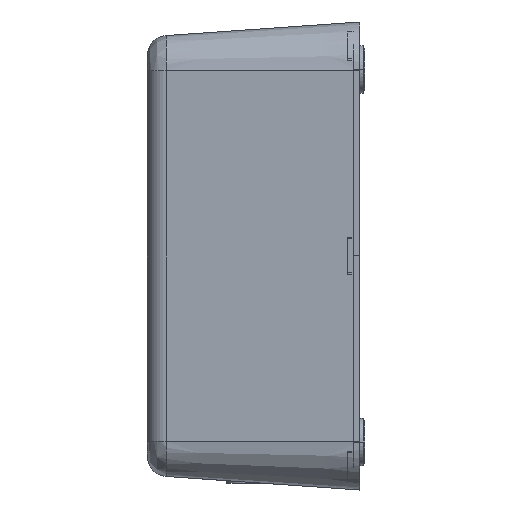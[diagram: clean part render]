
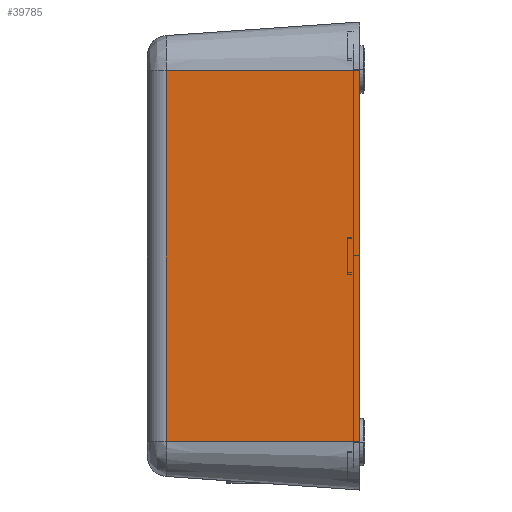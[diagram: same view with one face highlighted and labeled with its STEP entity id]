
A CAD part, left-side view. The second image highlights one B-rep face of the part: STEP entity #39785.
In plain terms, the highlighted planar face has unit normal (-0.998, 0.07, 0).
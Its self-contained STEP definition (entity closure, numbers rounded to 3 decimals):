
#15454=DIRECTION('',(0.,0.,1.));
#15455=VECTOR('',#15454,110.);
#15456=CARTESIAN_POINT('',(-161.39,57.419,-55.));
#15457=LINE('',#15456,#15455);
#17794=DIRECTION('',(0.,0.,-1.));
#17795=VECTOR('',#17794,110.);
#17796=CARTESIAN_POINT('',(-165.405,0.,
55.));
#17797=LINE('',#17796,#17795);
#17825=DIRECTION('',(0.07,0.998,0.));
#17826=VECTOR('',#17825,57.559);
#17827=CARTESIAN_POINT('',(-165.405,0.,
-55.));
#17828=LINE('',#17827,#17826);
#17837=DIRECTION('',(-0.07,-0.998,
0.));
#17838=VECTOR('',#17837,57.559);
#17839=CARTESIAN_POINT('',(-161.39,57.419,
55.));
#17840=LINE('',#17839,#17838);
#19478=CARTESIAN_POINT('',(-161.39,57.419,-55.));
#19480=VERTEX_POINT('',#19478);
#20539=CARTESIAN_POINT('',(-165.405,0.,
55.));
#20540=VERTEX_POINT('',#20539);
#20541=CARTESIAN_POINT('',(-161.39,57.419,
55.));
#20542=VERTEX_POINT('',#20541);
#20545=CARTESIAN_POINT('',(-165.405,0.,
-55.));
#20546=VERTEX_POINT('',#20545);
#39773=CARTESIAN_POINT('',(-163.398,28.709,
0.));
#39774=DIRECTION('',(0.998,-0.07,0.));
#39775=DIRECTION('',(0.07,0.998,0.));
#39776=AXIS2_PLACEMENT_3D('',#39773,#39774,#39775);
#39777=PLANE('',#39776);
#39778=ORIENTED_EDGE('',*,*,#39735,.T.);
#39779=ORIENTED_EDGE('',*,*,#39765,.T.);
#39780=ORIENTED_EDGE('',*,*,#37010,.T.);
#39782=ORIENTED_EDGE('',*,*,#39781,.T.);
#39783=EDGE_LOOP('',(#39778,#39779,#39780,#39782));
#39784=FACE_OUTER_BOUND('',#39783,.F.);
#39785=ADVANCED_FACE('',(#39784),#39777,.F.);
#37010=EDGE_CURVE('',#19480,#20542,#15457,.T.);
#39735=EDGE_CURVE('',#20540,#20546,#17797,.T.);
#39765=EDGE_CURVE('',#20546,#19480,#17828,.T.);
#39781=EDGE_CURVE('',#20542,#20540,#17840,.T.);
